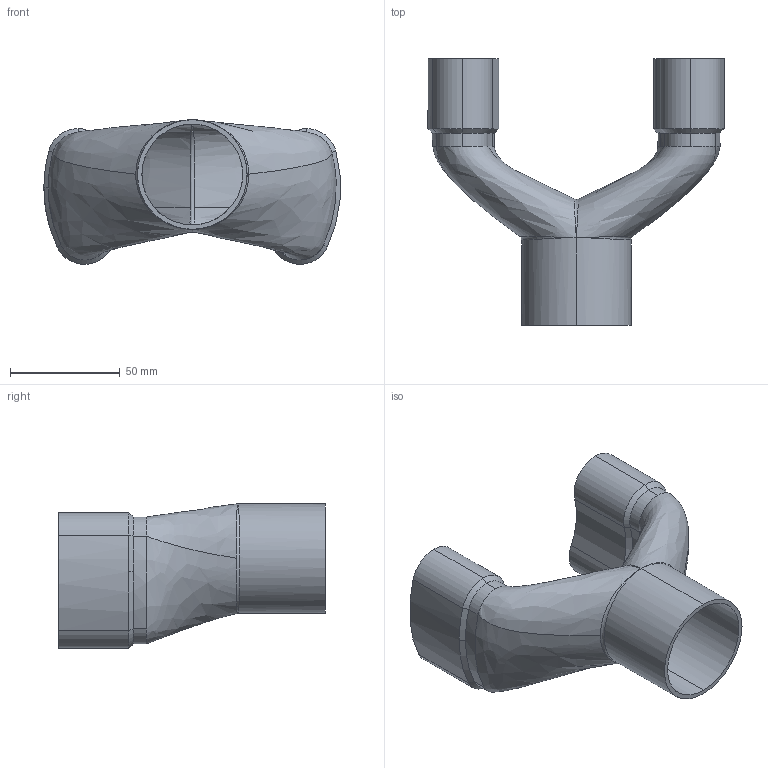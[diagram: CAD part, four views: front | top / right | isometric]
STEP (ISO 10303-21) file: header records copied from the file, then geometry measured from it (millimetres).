
FILE_DESCRIPTION (( 'STEP AP203' ), '1' );
FILE_NAME ('Y-verteiler.STEP', '2022-02-25T19:21:05', ( 'Alex' ), ( '' ), 'SwSTEP 2.0', 'SolidWorks 2021', '' );
FILE_SCHEMA (( 'CONFIG_CONTROL_DESIGN' ));
Length unit declared in the file: millimetre
Products named in the file (1): Y-verteiler
Bounding box: 135.19 x 121.75 x 65.98 mm (x, y, z)
Volume: 66323.8 mm3; surface area: 66225.1 mm2
Topology: 1 solids, 1 shells, 90 faces, 217 edges, 126 vertices
Faces by surface type: cylinder 48, bspline 17, plane 13, cone 11, sphere 1
Entity records: 44866 total; most frequent: CARTESIAN_POINT 42825, ORIENTED_EDGE 426, DIRECTION 395, EDGE_CURVE 213, AXIS2_PLACEMENT_3D 169, VERTEX_POINT 126, CIRCLE 95, EDGE_LOOP 95
